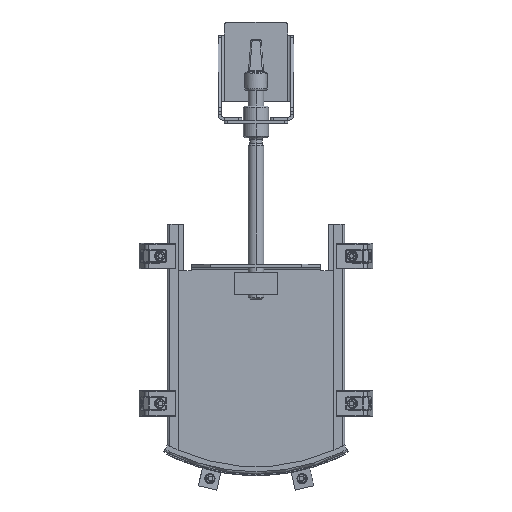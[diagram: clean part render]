
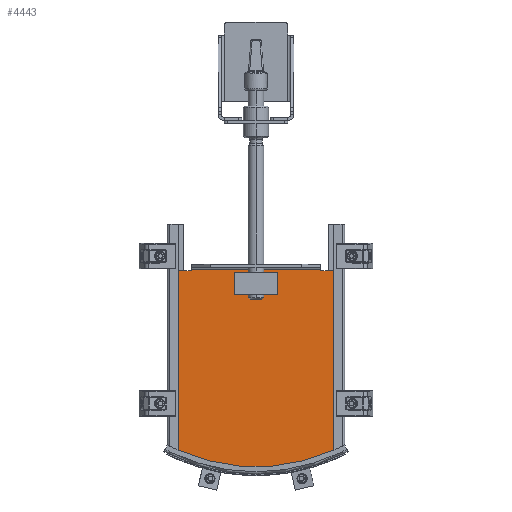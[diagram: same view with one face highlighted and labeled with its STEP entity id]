
A CAD part, top view. The second image highlights one B-rep face of the part: STEP entity #4443.
In plain terms, the highlighted planar face has unit normal (0, 0, 1).
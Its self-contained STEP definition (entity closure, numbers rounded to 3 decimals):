
#175 = DIRECTION ( 'NONE',  ( 1., 0., 0. ) ) ;
#272 = CARTESIAN_POINT ( 'NONE',  ( 34., 307.5, 33. ) ) ;
#694 = VECTOR ( 'NONE', #22703, 1000. ) ;
#738 = DIRECTION ( 'NONE',  ( 1., 0., 0. ) ) ;
#747 = CARTESIAN_POINT ( 'NONE',  ( -123.172, 310., 33. ) ) ;
#805 = DIRECTION ( 'NONE',  ( 1., 0., 0. ) ) ;
#1394 = CARTESIAN_POINT ( 'NONE',  ( 123.172, 310., 33. ) ) ;
#1506 = ORIENTED_EDGE ( 'NONE', *, *, #19632, .F. ) ;
#1779 = CARTESIAN_POINT ( 'NONE',  ( 122.95, 310., 33. ) ) ;
#1855 = AXIS2_PLACEMENT_3D ( 'NONE', #33491, #7672, #738 ) ;
#2005 = AXIS2_PLACEMENT_3D ( 'NONE', #20054, #10248, #25974 ) ;
#2206 = CARTESIAN_POINT ( 'NONE',  ( -34., 307.5, 33. ) ) ;
#2322 = ORIENTED_EDGE ( 'NONE', *, *, #8387, .T. ) ;
#3196 = CARTESIAN_POINT ( 'NONE',  ( -34., 307.5, 33. ) ) ;
#3341 = CARTESIAN_POINT ( 'NONE',  ( -122.95, -36.693, 33. ) ) ;
#3537 = CARTESIAN_POINT ( 'NONE',  ( -34., 272.5, 33. ) ) ;
#3757 = CARTESIAN_POINT ( 'NONE',  ( -130., 312., 33. ) ) ;
#4443 = ADVANCED_FACE ( 'NONE', ( #39985, #29888 ), #37239, .T. ) ;
#5704 = VERTEX_POINT ( 'NONE', #32664 ) ;
#5891 = VECTOR ( 'NONE', #32607, 1000. ) ;
#6854 = VERTEX_POINT ( 'NONE', #23724 ) ;
#7311 = DIRECTION ( 'NONE',  ( 0., -1., 0. ) ) ;
#7506 = LINE ( 'NONE', #1394, #25994 ) ;
#7672 = DIRECTION ( 'NONE',  ( 0., 0., -1. ) ) ;
#8177 = EDGE_CURVE ( 'NONE', #9641, #6854, #9233, .T. ) ;
#8387 = EDGE_CURVE ( 'NONE', #23108, #38251, #23376, .T. ) ;
#8491 = DIRECTION ( 'NONE',  ( 0., -1., 0. ) ) ;
#8621 = EDGE_CURVE ( 'NONE', #27996, #5704, #25785, .T. ) ;
#9233 = CIRCLE ( 'NONE', #1855, 2. ) ;
#9421 = VECTOR ( 'NONE', #7311, 1000. ) ;
#9641 = VERTEX_POINT ( 'NONE', #25297 ) ;
#10248 = DIRECTION ( 'NONE',  ( 0., 0., -1. ) ) ;
#10744 = DIRECTION ( 'NONE',  ( 1., 0., 0. ) ) ;
#11919 = VECTOR ( 'NONE', #175, 1000. ) ;
#12222 = VECTOR ( 'NONE', #36468, 1000. ) ;
#12291 = EDGE_LOOP ( 'NONE', ( #1506, #22297, #24297, #34459 ) ) ;
#12689 = VERTEX_POINT ( 'NONE', #39116 ) ;
#14797 = ORIENTED_EDGE ( 'NONE', *, *, #18224, .T. ) ;
#15330 = CIRCLE ( 'NONE', #2005, 2. ) ;
#16232 = VECTOR ( 'NONE', #8491, 1000. ) ;
#16366 = EDGE_CURVE ( 'NONE', #17199, #23093, #15330, .T. ) ;
#17127 = ORIENTED_EDGE ( 'NONE', *, *, #8177, .T. ) ;
#17199 = VERTEX_POINT ( 'NONE', #35641 ) ;
#18224 = EDGE_CURVE ( 'NONE', #38251, #17199, #7506, .T. ) ;
#19632 = EDGE_CURVE ( 'NONE', #39199, #27996, #23837, .T. ) ;
#19735 = DIRECTION ( 'NONE',  ( -1., 0., 0. ) ) ;
#20054 = CARTESIAN_POINT ( 'NONE',  ( 104., 312., 33. ) ) ;
#20138 = AXIS2_PLACEMENT_3D ( 'NONE', #23316, #33166, #10744 ) ;
#20239 = CARTESIAN_POINT ( 'NONE',  ( 102., 312., 33. ) ) ;
#20274 = DIRECTION ( 'NONE',  ( -1., 0., 0. ) ) ;
#20622 = CARTESIAN_POINT ( 'NONE',  ( -130., 31.851, 33. ) ) ;
#22297 = ORIENTED_EDGE ( 'NONE', *, *, #29922, .F. ) ;
#22703 = DIRECTION ( 'NONE',  ( 0., 1., 0. ) ) ;
#22991 = CARTESIAN_POINT ( 'NONE',  ( 122.95, 26.352, 33. ) ) ;
#23093 = VERTEX_POINT ( 'NONE', #20239 ) ;
#23108 = VERTEX_POINT ( 'NONE', #22991 ) ;
#23316 = CARTESIAN_POINT ( 'NONE',  ( 0., 300., 33. ) ) ;
#23376 = LINE ( 'NONE', #39354, #5891 ) ;
#23724 = CARTESIAN_POINT ( 'NONE',  ( -104., 310., 33. ) ) ;
#23837 = LINE ( 'NONE', #37270, #16232 ) ;
#24254 = EDGE_CURVE ( 'NONE', #24499, #29986, #39047, .T. ) ;
#24297 = ORIENTED_EDGE ( 'NONE', *, *, #41337, .F. ) ;
#24426 = ORIENTED_EDGE ( 'NONE', *, *, #16366, .T. ) ;
#24499 = VERTEX_POINT ( 'NONE', #40374 ) ;
#25297 = CARTESIAN_POINT ( 'NONE',  ( -102., 312., 33. ) ) ;
#25482 = LINE ( 'NONE', #272, #694 ) ;
#25785 = LINE ( 'NONE', #3537, #11919 ) ;
#25974 = DIRECTION ( 'NONE',  ( 1., 0., 0. ) ) ;
#25994 = VECTOR ( 'NONE', #20274, 1000. ) ;
#26389 = LINE ( 'NONE', #747, #12222 ) ;
#26759 = EDGE_CURVE ( 'NONE', #9641, #23093, #35692, .T. ) ;
#27437 = VECTOR ( 'NONE', #19735, 1000. ) ;
#27996 = VERTEX_POINT ( 'NONE', #32852 ) ;
#28813 = CARTESIAN_POINT ( 'NONE',  ( -122.95, 26.352, 33. ) ) ;
#29888 = FACE_BOUND ( 'NONE', #12291, .T. ) ;
#29922 = EDGE_CURVE ( 'NONE', #12689, #39199, #38692, .T. ) ;
#29986 = VERTEX_POINT ( 'NONE', #28813 ) ;
#30088 = DIRECTION ( 'NONE',  ( 1., 0., 0. ) ) ;
#31329 = AXIS2_PLACEMENT_3D ( 'NONE', #20622, #33860, #30088 ) ;
#31636 = EDGE_CURVE ( 'NONE', #23108, #29986, #34226, .T. ) ;
#32402 = ORIENTED_EDGE ( 'NONE', *, *, #31636, .F. ) ;
#32607 = DIRECTION ( 'NONE',  ( 0., 1., 0. ) ) ;
#32664 = CARTESIAN_POINT ( 'NONE',  ( 34., 272.5, 33. ) ) ;
#32852 = CARTESIAN_POINT ( 'NONE',  ( -34., 272.5, 33. ) ) ;
#33061 = EDGE_CURVE ( 'NONE', #6854, #24499, #26389, .T. ) ;
#33166 = DIRECTION ( 'NONE',  ( 0., 0., -1. ) ) ;
#33491 = CARTESIAN_POINT ( 'NONE',  ( -104., 312., 33. ) ) ;
#33860 = DIRECTION ( 'NONE',  ( 0., 0., 1. ) ) ;
#34226 = CIRCLE ( 'NONE', #20138, 300. ) ;
#34459 = ORIENTED_EDGE ( 'NONE', *, *, #8621, .F. ) ;
#35184 = VECTOR ( 'NONE', #805, 1000. ) ;
#35641 = CARTESIAN_POINT ( 'NONE',  ( 104., 310., 33. ) ) ;
#35692 = LINE ( 'NONE', #3757, #35184 ) ;
#35950 = ORIENTED_EDGE ( 'NONE', *, *, #26759, .F. ) ;
#36468 = DIRECTION ( 'NONE',  ( -1., 0., 0. ) ) ;
#36518 = EDGE_LOOP ( 'NONE', ( #40838, #38683, #32402, #2322, #14797, #24426, #35950, #17127 ) ) ;
#37239 = PLANE ( 'NONE',  #31329 ) ;
#37270 = CARTESIAN_POINT ( 'NONE',  ( -34., 307.5, 33. ) ) ;
#38251 = VERTEX_POINT ( 'NONE', #1779 ) ;
#38683 = ORIENTED_EDGE ( 'NONE', *, *, #24254, .T. ) ;
#38692 = LINE ( 'NONE', #3196, #27437 ) ;
#39047 = LINE ( 'NONE', #3341, #9421 ) ;
#39116 = CARTESIAN_POINT ( 'NONE',  ( 34., 307.5, 33. ) ) ;
#39199 = VERTEX_POINT ( 'NONE', #2206 ) ;
#39354 = CARTESIAN_POINT ( 'NONE',  ( 122.95, -36.693, 33. ) ) ;
#39985 = FACE_OUTER_BOUND ( 'NONE', #36518, .T. ) ;
#40374 = CARTESIAN_POINT ( 'NONE',  ( -122.95, 310., 33. ) ) ;
#40838 = ORIENTED_EDGE ( 'NONE', *, *, #33061, .T. ) ;
#41337 = EDGE_CURVE ( 'NONE', #5704, #12689, #25482, .T. ) ;
